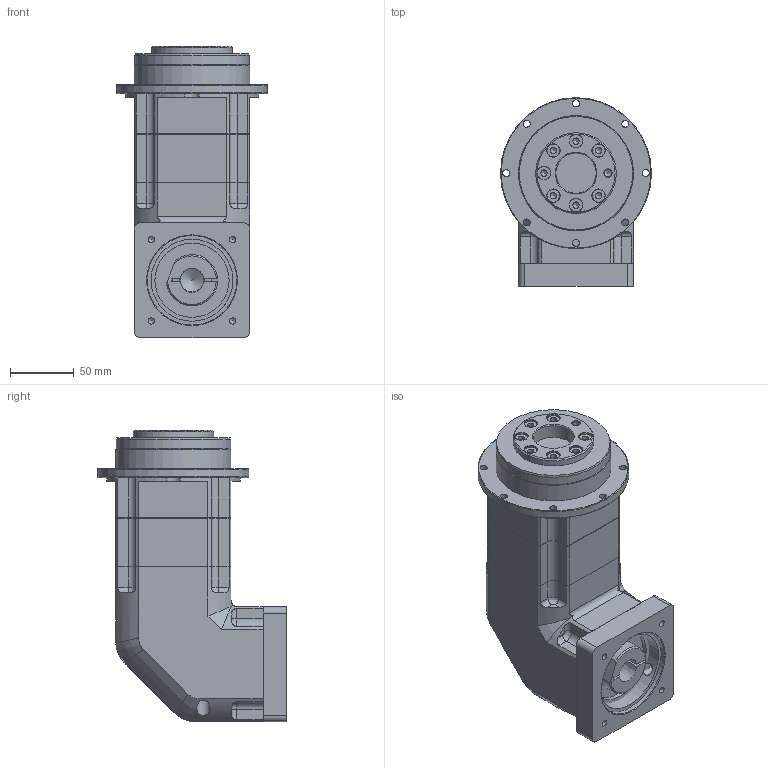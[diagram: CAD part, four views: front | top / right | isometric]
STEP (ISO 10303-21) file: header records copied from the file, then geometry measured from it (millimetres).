
FILE_DESCRIPTION((''),'2;1');
FILE_NAME('C:\Documents and Settings\nagyu\바탕 화면\유성감속기 3D\SPLF090\SPLF090S025~100FA.stp','2009-10-27T09:45:17',('nagyu'),(''),'Autodesk Inventor 2010','Autodesk Inventor 2010','');
FILE_SCHEMA(('AUTOMOTIVE_DESIGN { 1 0 10303 214 1 1 1 1 }'));
Length unit declared in the file: millimetre
Products named in the file (5): SPLF090 2단; SPIF090; 90각 CARRIER CASE; 90각 INPUT ADAPTER FLANGE; SPL090 GEARCASE
Assembly tree (4 placements, depth 2):
  SPLF090 2단
    SPIF090
    90각 CARRIER CASE
    90각 INPUT ADAPTER FLANGE
    SPL090 GEARCASE
Bounding box: 118 x 147.1 x 227.9 mm (x, y, z)
Volume: 1591451.9 mm3; surface area: 182948.7 mm2
Topology: 4 solids, 4 shells, 312 faces, 800 edges, 518 vertices
Faces by surface type: plane 113, cylinder 106, bspline 64, cone 27, torus 2
Full cylindrical faces by diameter (mm): 5.5 x12, 9.5 x4, 12 x1, 15 x1, 30 x1, 54 x1, 62 x2, 63 x1, 68 x1, 76 x1, 89.4 x1, 90 x1, 118 x1
Entity records: 10370 total; most frequent: CARTESIAN_POINT 3239, DIRECTION 1405, ORIENTED_EDGE 1352, EDGE_CURVE 676, AXIS2_PLACEMENT_3D 557, VERTEX_POINT 477, EDGE_LOOP 447, FACE_OUTER_BOUND 312
